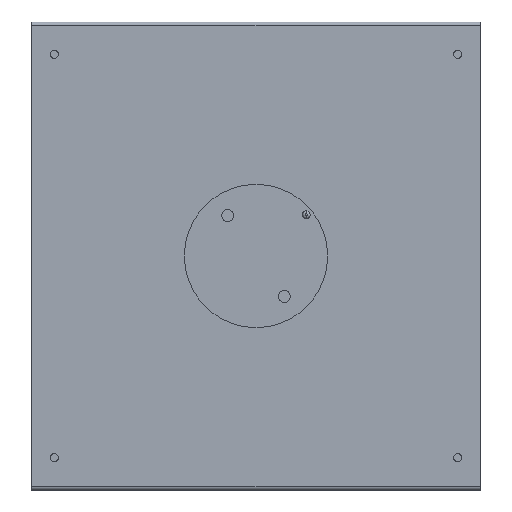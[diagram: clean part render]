
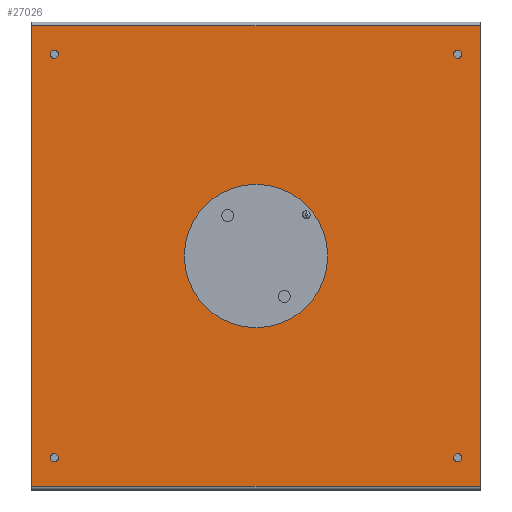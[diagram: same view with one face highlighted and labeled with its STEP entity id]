
A CAD part, front view. The second image highlights one B-rep face of the part: STEP entity #27026.
In plain terms, the highlighted planar face has unit normal (0, -1, 0) as drawn and (0, 0, -1) by its records, which use the part's own axes.
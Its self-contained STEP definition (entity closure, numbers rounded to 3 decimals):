
#26066=CARTESIAN_POINT('',(0.,0.,-3.));
#26067=DIRECTION('',(0.,0.,-1.));
#26068=DIRECTION('',(-1.,0.,0.));
#26069=AXIS2_PLACEMENT_3D('',#26066,#26067,#26068);
#26071=CARTESIAN_POINT('',(0.,0.,-3.));
#26072=DIRECTION('',(0.,0.,-1.));
#26073=DIRECTION('',(1.,0.,0.));
#26074=AXIS2_PLACEMENT_3D('',#26071,#26072,#26073);
#26076=CARTESIAN_POINT('',(112.5,-112.5,-3.));
#26077=DIRECTION('',(0.,0.,-1.));
#26078=DIRECTION('',(-1.,0.,0.));
#26079=AXIS2_PLACEMENT_3D('',#26076,#26077,#26078);
#26081=CARTESIAN_POINT('',(112.5,-112.5,-3.));
#26082=DIRECTION('',(0.,0.,-1.));
#26083=DIRECTION('',(1.,0.,0.));
#26084=AXIS2_PLACEMENT_3D('',#26081,#26082,#26083);
#26086=CARTESIAN_POINT('',(112.5,112.5,-3.));
#26087=DIRECTION('',(0.,0.,-1.));
#26088=DIRECTION('',(-1.,0.,0.));
#26089=AXIS2_PLACEMENT_3D('',#26086,#26087,#26088);
#26091=CARTESIAN_POINT('',(112.5,112.5,-3.));
#26092=DIRECTION('',(0.,0.,-1.));
#26093=DIRECTION('',(1.,0.,0.));
#26094=AXIS2_PLACEMENT_3D('',#26091,#26092,#26093);
#26096=CARTESIAN_POINT('',(-112.5,112.5,-3.));
#26097=DIRECTION('',(0.,0.,-1.));
#26098=DIRECTION('',(-1.,0.,0.));
#26099=AXIS2_PLACEMENT_3D('',#26096,#26097,#26098);
#26101=CARTESIAN_POINT('',(-112.5,112.5,-3.));
#26102=DIRECTION('',(0.,0.,-1.));
#26103=DIRECTION('',(1.,0.,0.));
#26104=AXIS2_PLACEMENT_3D('',#26101,#26102,#26103);
#26106=CARTESIAN_POINT('',(-112.5,-112.5,-3.));
#26107=DIRECTION('',(0.,0.,-1.));
#26108=DIRECTION('',(-1.,0.,0.));
#26109=AXIS2_PLACEMENT_3D('',#26106,#26107,#26108);
#26111=CARTESIAN_POINT('',(-112.5,-112.5,-3.));
#26112=DIRECTION('',(0.,0.,-1.));
#26113=DIRECTION('',(1.,0.,0.));
#26114=AXIS2_PLACEMENT_3D('',#26111,#26112,#26113);
#26116=DIRECTION('',(0.,-1.,0.));
#26117=VECTOR('',#26116,250.);
#26118=CARTESIAN_POINT('',(128.5,125.,-3.));
#26119=LINE('',#26118,#26117);
#26120=DIRECTION('',(-1.,0.,0.));
#26121=VECTOR('',#26120,257.);
#26122=CARTESIAN_POINT('',(128.5,125.,-3.));
#26123=LINE('',#26122,#26121);
#26124=DIRECTION('',(0.,-1.,0.));
#26125=VECTOR('',#26124,250.);
#26126=CARTESIAN_POINT('',(-128.5,125.,-3.));
#26127=LINE('',#26126,#26125);
#26128=DIRECTION('',(1.,0.,0.));
#26129=VECTOR('',#26128,257.);
#26130=CARTESIAN_POINT('',(-128.5,-125.,-3.));
#26131=LINE('',#26130,#26129);
#26650=CARTESIAN_POINT('',(-114.75,112.5,-3.));
#26651=CARTESIAN_POINT('',(-110.25,112.5,-3.));
#26652=VERTEX_POINT('',#26650);
#26653=VERTEX_POINT('',#26651);
#26654=CARTESIAN_POINT('',(-114.75,-112.5,-3.));
#26655=CARTESIAN_POINT('',(-110.25,-112.5,-3.));
#26656=VERTEX_POINT('',#26654);
#26657=VERTEX_POINT('',#26655);
#26658=CARTESIAN_POINT('',(110.25,112.5,-3.));
#26659=CARTESIAN_POINT('',(114.75,112.5,-3.));
#26660=VERTEX_POINT('',#26658);
#26661=VERTEX_POINT('',#26659);
#26662=CARTESIAN_POINT('',(110.25,-112.5,-3.));
#26663=CARTESIAN_POINT('',(114.75,-112.5,-3.));
#26664=VERTEX_POINT('',#26662);
#26665=VERTEX_POINT('',#26663);
#26666=CARTESIAN_POINT('',(-40.,0.,-3.));
#26668=VERTEX_POINT('',#26666);
#26670=CARTESIAN_POINT('',(40.,0.,-3.));
#26672=VERTEX_POINT('',#26670);
#26682=CARTESIAN_POINT('',(128.5,-125.,-3.));
#26684=VERTEX_POINT('',#26682);
#26688=CARTESIAN_POINT('',(128.5,125.,-3.));
#26689=VERTEX_POINT('',#26688);
#26691=CARTESIAN_POINT('',(-128.5,-125.,-3.));
#26693=VERTEX_POINT('',#26691);
#26694=CARTESIAN_POINT('',(-128.5,125.,-3.));
#26695=VERTEX_POINT('',#26694);
#26983=CARTESIAN_POINT('',(0.,-125.,-3.));
#26984=DIRECTION('',(0.,0.,-1.));
#26985=DIRECTION('',(-1.,0.,0.));
#26986=AXIS2_PLACEMENT_3D('',#26983,#26984,#26985);
#26987=PLANE('',#26986);
#26989=ORIENTED_EDGE('',*,*,#26988,.F.);
#26991=ORIENTED_EDGE('',*,*,#26990,.T.);
#26992=ORIENTED_EDGE('',*,*,#26975,.T.);
#26993=ORIENTED_EDGE('',*,*,#26845,.T.);
#26994=EDGE_LOOP('',(#26989,#26991,#26992,#26993));
#26995=FACE_OUTER_BOUND('',#26994,.F.);
#26997=ORIENTED_EDGE('',*,*,#26996,.T.);
#26999=ORIENTED_EDGE('',*,*,#26998,.T.);
#27000=EDGE_LOOP('',(#26997,#26999));
#27001=FACE_BOUND('',#27000,.F.);
#27003=ORIENTED_EDGE('',*,*,#27002,.T.);
#27005=ORIENTED_EDGE('',*,*,#27004,.T.);
#27006=EDGE_LOOP('',(#27003,#27005));
#27007=FACE_BOUND('',#27006,.F.);
#27009=ORIENTED_EDGE('',*,*,#27008,.T.);
#27011=ORIENTED_EDGE('',*,*,#27010,.T.);
#27012=EDGE_LOOP('',(#27009,#27011));
#27013=FACE_BOUND('',#27012,.F.);
#27015=ORIENTED_EDGE('',*,*,#27014,.T.);
#27017=ORIENTED_EDGE('',*,*,#27016,.T.);
#27018=EDGE_LOOP('',(#27015,#27017));
#27019=FACE_BOUND('',#27018,.F.);
#27021=ORIENTED_EDGE('',*,*,#27020,.T.);
#27023=ORIENTED_EDGE('',*,*,#27022,.T.);
#27024=EDGE_LOOP('',(#27021,#27023));
#27025=FACE_BOUND('',#27024,.F.);
#27026=ADVANCED_FACE('',(#26995,#27001,#27007,#27013,#27019,#27025),#26987,.T.);
#26070=CIRCLE('',#26069,40.);
#26075=CIRCLE('',#26074,40.);
#26080=CIRCLE('',#26079,2.25);
#26085=CIRCLE('',#26084,2.25);
#26090=CIRCLE('',#26089,2.25);
#26095=CIRCLE('',#26094,2.25);
#26100=CIRCLE('',#26099,2.25);
#26105=CIRCLE('',#26104,2.25);
#26110=CIRCLE('',#26109,2.25);
#26115=CIRCLE('',#26114,2.25);
#26845=EDGE_CURVE('',#26693,#26684,#26131,.T.);
#26975=EDGE_CURVE('',#26695,#26693,#26127,.T.);
#26988=EDGE_CURVE('',#26689,#26684,#26119,.T.);
#26990=EDGE_CURVE('',#26689,#26695,#26123,.T.);
#26996=EDGE_CURVE('',#26664,#26665,#26080,.T.);
#26998=EDGE_CURVE('',#26665,#26664,#26085,.T.);
#27002=EDGE_CURVE('',#26660,#26661,#26090,.T.);
#27004=EDGE_CURVE('',#26661,#26660,#26095,.T.);
#27008=EDGE_CURVE('',#26652,#26653,#26100,.T.);
#27010=EDGE_CURVE('',#26653,#26652,#26105,.T.);
#27014=EDGE_CURVE('',#26656,#26657,#26110,.T.);
#27016=EDGE_CURVE('',#26657,#26656,#26115,.T.);
#27020=EDGE_CURVE('',#26668,#26672,#26070,.T.);
#27022=EDGE_CURVE('',#26672,#26668,#26075,.T.);
